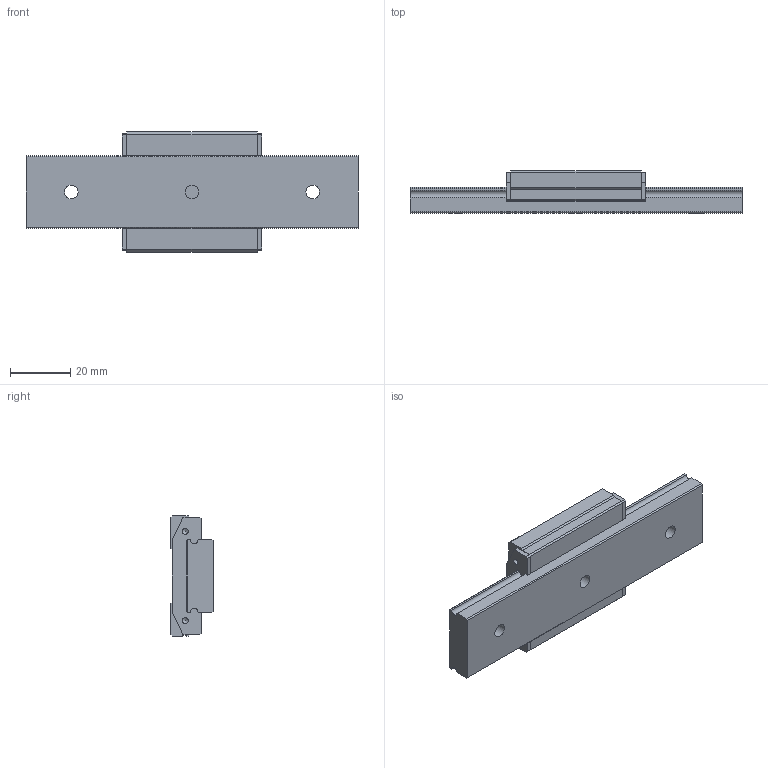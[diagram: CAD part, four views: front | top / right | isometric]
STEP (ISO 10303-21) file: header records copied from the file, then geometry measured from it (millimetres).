
FILE_DESCRIPTION(/* description */ ('STEP AP214'),/* implementation_level */ '2;1');
FILE_NAME(/* name */ 'Minirail 1MNN 24-110-15-15-G3-V0-(1)',/* time_stamp */ '2025-04-28T13:52:42+02:00',/* author */ ('License CC BY-ND 4.0'),/* organization */ ('CADENAS'),/* preprocessor_version */ 'ST-DEVELOPER v19.3',/* originating_system */ 'PARTsolutions',/* authorisation */ ' ');
FILE_SCHEMA (('AUTOMOTIVE_DESIGN {1 0 10303 214 3 1 1}'));
Length unit declared in the file: millimetre
Products named in the file (4): Minirail 1MNN 24-110-15-15-G3-V0-(1); Rail 1 MN24-110-15-15-G3-V0(1); Carriage-MNN24; Wiper-MN24
Assembly tree (4 placements, depth 2):
  Minirail 1MNN 24-110-15-15-G3-V0-(1)
    Rail 1 MN24-110-15-15-G3-V0(1)
    Carriage-MNN24
    Wiper-MN24  x2
Bounding box: 110 x 14 x 40 mm (x, y, z)
Volume: 33255.9 mm3; surface area: 15259.7 mm2
Topology: 4 solids, 4 shells, 129 faces, 332 edges, 218 vertices
Faces by surface type: plane 82, cylinder 31, cone 16
Full cylindrical faces by diameter (mm): 2 x4, 2.459 x4, 4 x8, 4.5 x3, 8 x3
Entity records: 2945 total; most frequent: CARTESIAN_POINT 488, DIRECTION 484, ORIENTED_EDGE 432, EDGE_CURVE 216, VERTEX_POINT 166, AXIS2_PLACEMENT_3D 162, LINE 160, VECTOR 160
